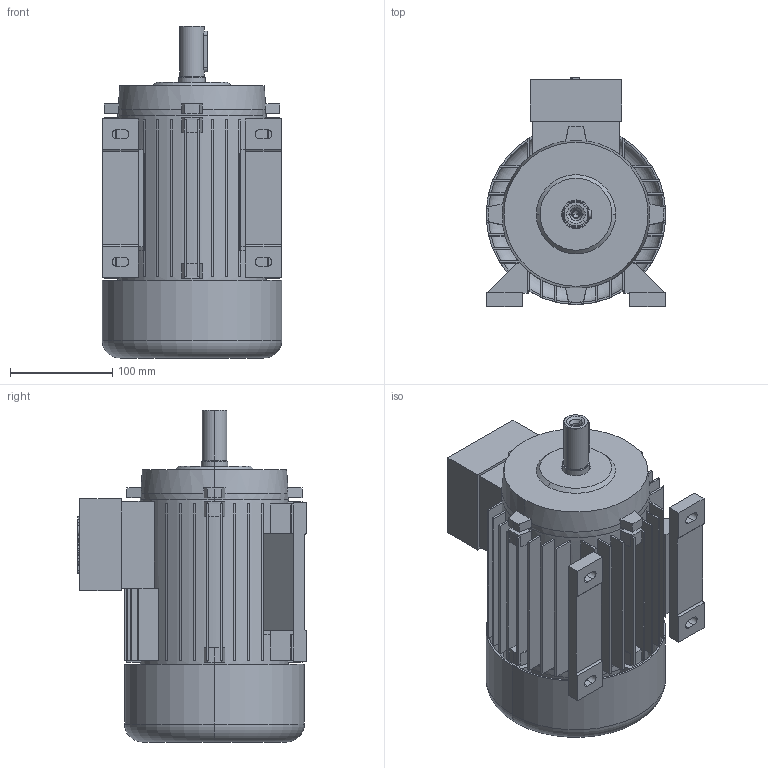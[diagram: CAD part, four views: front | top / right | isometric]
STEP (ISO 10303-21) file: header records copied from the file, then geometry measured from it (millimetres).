
FILE_DESCRIPTION (( 'STEP AP203' ), '1' );
FILE_NAME ('5AZ 90L B3 STANDK.STEP', '2017-11-10T11:21:28', ( '' ), ( '' ), 'SwSTEP 2.0', 'SolidWorks 2017', '' );
FILE_SCHEMA (( 'CONFIG_CONTROL_DESIGN' ));
Length unit declared in the file: millimetre
Products named in the file (1): 5AZ 90L B3 STANDK
Bounding box: 176 x 224 x 325 mm (x, y, z)
Volume: 2004357.3 mm3; surface area: 650451.8 mm2
Topology: 9 solids, 9 shells, 498 faces, 1289 edges, 849 vertices
Faces by surface type: plane 342, cylinder 121, cone 22, bspline 9, torus 4
Entity records: 15399 total; most frequent: CARTESIAN_POINT 2868, DIRECTION 2621, ORIENTED_EDGE 2574, EDGE_CURVE 1287, AXIS2_PLACEMENT_3D 882, VECTOR 857, LINE 857, VERTEX_POINT 849
